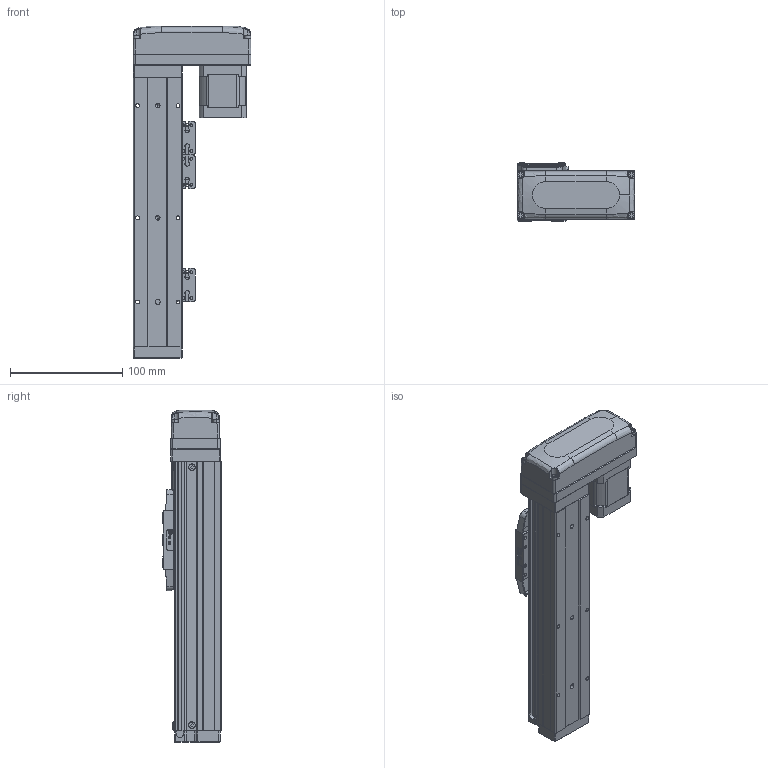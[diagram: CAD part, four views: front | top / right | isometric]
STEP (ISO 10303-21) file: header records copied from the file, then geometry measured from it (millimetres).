
FILE_DESCRIPTION (( 'STEP AP203' ), '1' );
FILE_NAME ('GTH4-100-BL-B42-C4.step', '2023-02-14T00:17:29', ( '微软用户' ), ( '微软中国' ), 'SwSTEP 2.0', 'SolidWorks 2020', '' );
FILE_SCHEMA (( 'CONFIG_CONTROL_DESIGN' ));
Length unit declared in the file: millimetre
Products named in the file (19): BTH50-028; BTH40-004; BTH50-023; BTH40-013; BTH40-001-50_BTH40-001-100; BTH50-024; GBT 70.3-M3℅6; BTH40-003; GBT 70.1-M3℅6; BTH40-027-1; BTH40-006; GBT96.1-2002 3×0.8; BTH50-026; BTH-M3X5X6; BTH40-022; 42CM06; GBT70.1-2000 M3×16; GBT 70.1-M2.5×6; GTH4-100-BL-B42-C4
Assembly tree (47 placements, depth 2):
  GTH4-100-BL-B42-C4
    BTH40-001-50_BTH40-001-100
    BTH40-003
    BTH40-006
    BTH-M3X5X6  x8
    GBT70.1-2000 M3×16  x4
    BTH50-028  x2
    BTH50-023  x3
    BTH50-024  x3
    GBT 70.1-M3℅6  x6
    GBT96.1-2002 3×0.8  x6
    BTH40-022
    GBT 70.1-M2.5×6  x2
    BTH40-004
    BTH40-013
    GBT 70.3-M3℅6  x4
    BTH40-027-1
    BTH50-026
    42CM06
Bounding box: 105 x 52 x 296 mm (x, y, z)
Volume: 635272.7 mm3; surface area: 158284.2 mm2
Topology: 56 solids, 56 shells, 3303 faces, 7696 edges, 4602 vertices
Faces by surface type: cone 1488, plane 1076, cylinder 561, torus 124, bspline 42, sphere 12
Entity records: 76946 total; most frequent: CARTESIAN_POINT 13889, DIRECTION 13661, ORIENTED_EDGE 12038, EDGE_CURVE 6019, AXIS2_PLACEMENT_3D 5237, VERTEX_POINT 3589, VECTOR 3187, LINE 3187
